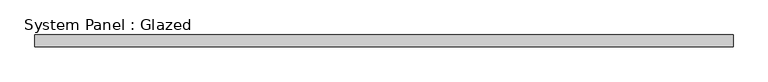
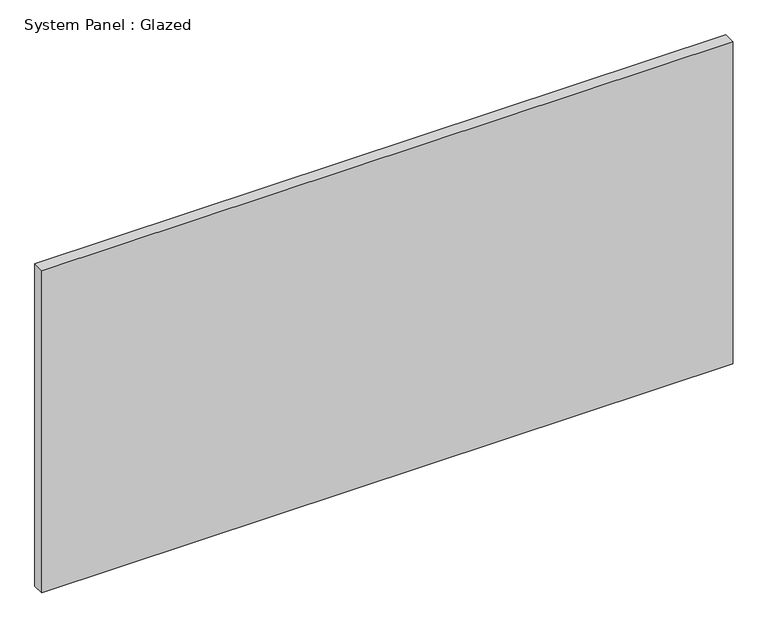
"""IFC4 building model written with IfcOpenShell, lengths in millimetres: plate geometry, System Panel : Glazed."""

from ifc_helpers import new_model, si_unit, origin, origin_with_axes, place, context, project, spatial, polyline, outline, extrude, source, transform, mapped, element, save


def system_panel_glazed_d8862900(model_context):
    return source(origin(), model_context, "Body", "SweptSolid", [
        extrude(outline(polyline([(735.8695652, 24.5), (-735.8695652, 24.5), (-735.8695652, 49.5), (735.8695652, 49.5), (735.8695652, 24.5)])), origin_with_axes(), (0.0, 0.0, 1.0), 725.0),
    ])


if __name__ == "__main__":
    model = new_model("IFC4")
    model_context = context("Model", 3, world=origin())
    ifc_project = project(units=[si_unit("LENGTHUNIT", "METRE", prefix="MILLI")], contexts=[model_context])
    site = spatial("IfcSite", under=ifc_project)
    building = spatial("IfcBuilding", under=site)
    placement = place(None, origin())
    system_panel_glazed_shape = system_panel_glazed_d8862900(model_context)
    element("IfcPlate", 1, ObjectType="System Panel : Glazed", at=placement, inside=building, context=model_context, shape_type="MappedRepresentation", body=[
        mapped(system_panel_glazed_shape, transform((0.0, 0.0, 0.0), x_axis=(1.0, 0.0, 0.0), y_axis=(0.0, 1.0, 0.0), z_axis=(0.0, 0.0, 1.0))),
    ])
    save(model, "model.ifc")
